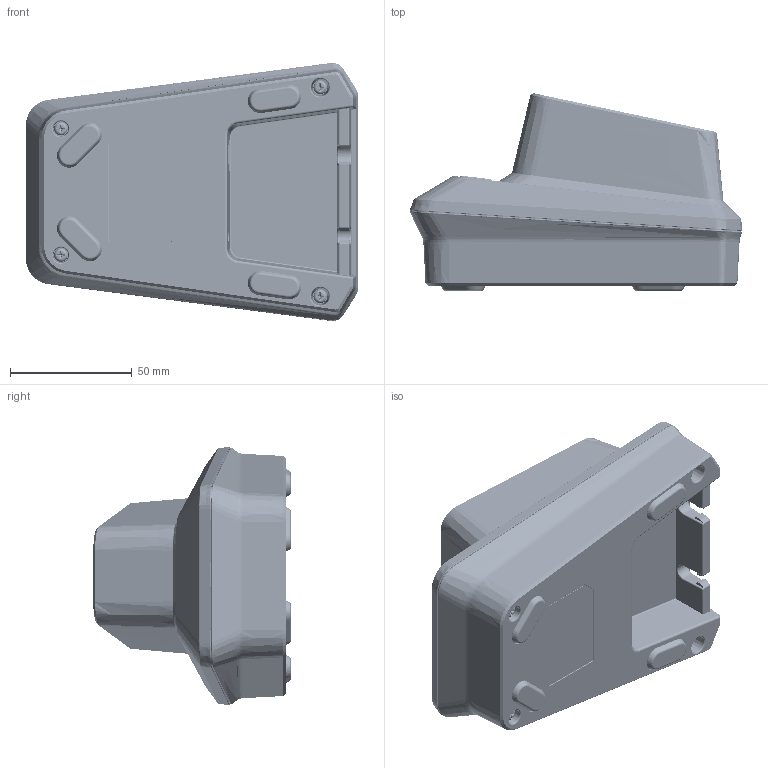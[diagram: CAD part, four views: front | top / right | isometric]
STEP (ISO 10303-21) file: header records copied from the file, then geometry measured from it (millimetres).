
FILE_DESCRIPTION((''),'2;1');
FILE_NAME('DH9-RDI000554-V011_ASM','2025-02-11T10:55:08',('401332'),(''),'CREO PARAMETRIC BY PTC INC, 2020184','CREO PARAMETRIC BY PTC INC, 2020184','');
FILE_SCHEMA(('CONFIG_CONTROL_DESIGN','SHAPE_APPEARANCE_LAYERS_GROUPS'));
Products named in the file (36): DH9-RDI000554-2027; DH9-RDI000554-2028; DH9-RDI000554-2037; DH9-RDI000554-V100_ASM; HR-PCB-0455-00; DH9-RDI000554-L002; 1-2-15-01-0020; 1-2-17-20-10004; DH9-RDI000554-6020; 1-2-17-10-10004; 1-2-08-02-10021; 1-2-17-06-10037; HR-PCB-0455-00-SM-00_ASM; DH9-RDI000554-1001; HR-PCB-0456-00; 1-2-17-10-0028; PRT0021_4; PRT0022_2; PRT0024_1; JBL-CHARGE-POGO_ASM; HR-PCB-0456-00-SJ-00_ASM; HR-PCB-XXXXX-PFC-00; DH9-RDI000554-9000; DH9-RDI000554-9008; DH0-000-2039; DH9-RDI000554-2026; DH9-RDI000554-6001; DH9-RDI000554-9060; DH9-RDI000554-9001; DH3-0185-2028; DH0-000-71700; T2-00063246; T2-00063241; T2-00063240; 1-2-54-14-10963-000; DH9-RDI000554-V011_ASM
Assembly tree (52 placements, depth 4):
  DH9-RDI000554-V011_ASM
    DH9-RDI000554-V100_ASM
      DH9-RDI000554-2027
      DH9-RDI000554-2028
      DH9-RDI000554-2037  x2
    HR-PCB-0455-00-SM-00_ASM
      HR-PCB-0455-00
      DH9-RDI000554-L002
      1-2-15-01-0020
      1-2-17-20-10004
      DH9-RDI000554-6020
      1-2-17-10-10004
      1-2-08-02-10021  x2
      1-2-17-06-10037
    DH9-RDI000554-1001
    HR-PCB-0456-00-SJ-00_ASM
      HR-PCB-0456-00
      1-2-17-10-0028
      JBL-CHARGE-POGO_ASM
        PRT0021_4
        PRT0022_2  x2
        PRT0024_1  x4
    HR-PCB-XXXXX-PFC-00
    DH9-RDI000554-9000
    DH9-RDI000554-9008
    DH0-000-2039  x6
    DH9-RDI000554-2026
    DH9-RDI000554-6001
    DH9-RDI000554-9060
    DH9-RDI000554-9001
    DH3-0185-2028  x4
    DH0-000-71700
    T2-00063246
    T2-00063241
    T2-00063240  x2
    1-2-54-14-10963-000  x3
Bounding box: 136.63 x 81.24 x 106.25 mm (x, y, z)
Volume: 171470.3 mm3; surface area: 176411.2 mm2
Topology: 51 solids, 56 shells, 9461 faces, 26547 edges, 17010 vertices
Faces by surface type: plane 5250, cylinder 2383, bspline 1051, torus 343, cone 284, sphere 98, extrusion 50, revolution 2
Entity records: 421718 total; most frequent: CARTESIAN_POINT 112196, ORIENTED_EDGE 49112, DIRECTION 42692, PRESENTATION_STYLE_ASSIGNMENT 26521, STYLED_ITEM 24595, CURVE_STYLE 24558, EDGE_CURVE 24556, VECTOR 16244
